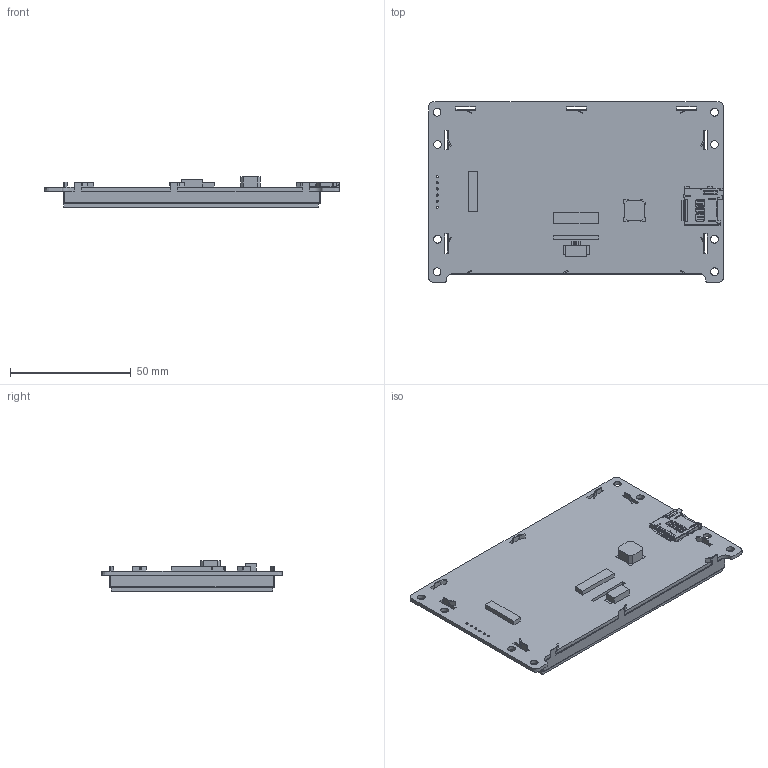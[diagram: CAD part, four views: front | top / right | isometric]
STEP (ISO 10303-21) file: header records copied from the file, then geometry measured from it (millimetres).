
FILE_DESCRIPTION(/* description */ (''),/* implementation_level */ '2;1');
FILE_NAME(/* name */ '3D-VTc043C23T_stp.stp',/* time_stamp */ '2025-02-14T19:10:16+08:00',/* author */ (''),/* organization */ (''),/* preprocessor_version */ 'ST-DEVELOPER v16',/* originating_system */ 'SIEMENS PLM Software NX 10.0',/* authorisation */ '');
FILE_SCHEMA (('AP203_CONFIGURATION_CONTROLLED_3D_DESIGN_OF_MECHANICAL_PARTS_AND_ASSEMBLIES_MIM_LF { 1 0 10303 403 2 1 2}'));
Length unit declared in the file: millimetre
Products named in the file (1): 3D-VTc043C23T_stp
Bounding box: 121.9 x 74.7 x 12.6 mm (x, y, z)
Volume: 26331.2 mm3; surface area: 42610.8 mm2
Topology: 13 solids, 13 shells, 1198 faces, 3407 edges, 2211 vertices
Faces by surface type: plane 916, cylinder 280, cone 1, extrusion 1
Full cylindrical faces by diameter (mm): 0.889 x6, 3.2 x8
Entity records: 39231 total; most frequent: CARTESIAN_POINT 6964, ORIENTED_EDGE 6784, DIRECTION 6345, EDGE_CURVE 3392, VECTOR 2817, LINE 2816, VERTEX_POINT 2211, AXIS2_PLACEMENT_3D 1764
